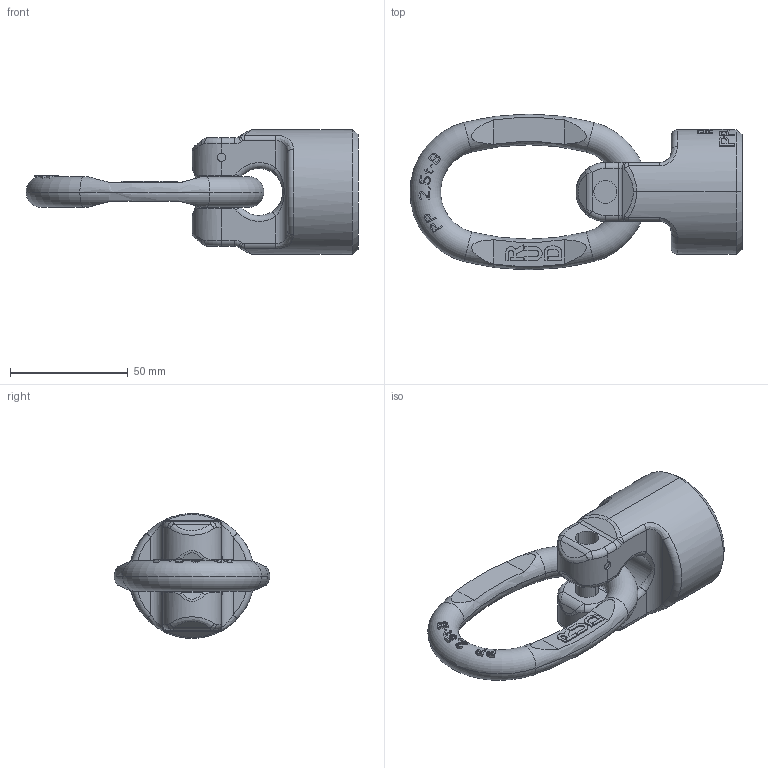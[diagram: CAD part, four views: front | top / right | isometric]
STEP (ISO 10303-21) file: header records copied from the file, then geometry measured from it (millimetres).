
FILE_DESCRIPTION((''),'2;1');
FILE_NAME('001-M31347-P-50_ASM','2018-04-26T',('Anja.Joas'),(''),'PRO/ENGINEER BY PARAMETRIC TECHNOLOGY CORPORATION, 2011490','PRO/ENGINEER BY PARAMETRIC TECHNOLOGY CORPORATION, 2011490','');
FILE_SCHEMA(('CONFIG_CONTROL_DESIGN'));
Length unit declared in the file: millimetre
Products named in the file (3): 001-M31347-P-20_AF0; 001-M31290-002; 001-M31347-P-50_ASM
Assembly tree (2 placements, depth 2):
  001-M31347-P-50_ASM
    001-M31347-P-20_AF0
    001-M31290-002
Bounding box: 141 x 66.08 x 53 mm (x, y, z)
Volume: 126919.1 mm3; surface area: 24860.3 mm2
Topology: 2 solids, 2 shells, 600 faces, 1614 edges, 1050 vertices
Faces by surface type: plane 475, cylinder 62, bspline 30, torus 30, cone 2, extrusion 1
Entity records: 20543 total; most frequent: CARTESIAN_POINT 6328, ORIENTED_EDGE 3228, DIRECTION 2510, EDGE_CURVE 1614, VERTEX_POINT 1050, VECTOR 842, LINE 841, AXIS2_PLACEMENT_3D 834
